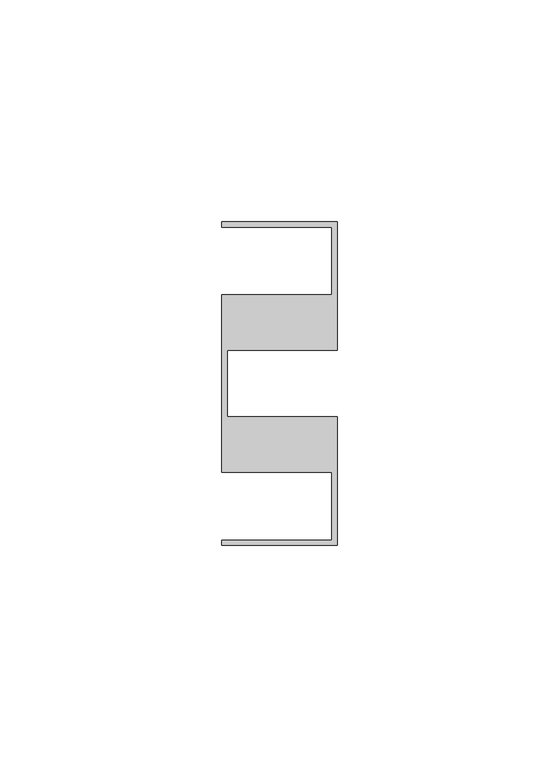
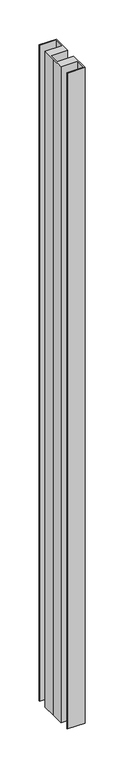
"""IFC4 building model written with IfcOpenShell, lengths in millimetres: member geometry, Прямоугольный импост : 10-AMG-2-Профиль 26Х73 Верх П."""

from ifc_helpers import new_model, si_unit, frame, origin, place, context, project, spatial, polyline, outline, extrude, source, transform, mapped, element, save


def member_746a6d20(model_context):
    return source(origin(), model_context, "Body", "SweptSolid", [
        extrude(outline(polyline([(-26.0, 36.5), (0.0, 36.5), (0.0, 7.5116043), (-24.8, 7.5116043), (-24.8, 0.0), (-24.8, -7.5116043), (0.0, -7.5116043), (0.0, -36.5), (-26.0, -36.5), (-26.0, -35.3116043), (-1.2, -35.3116043), (-1.2, -20.0), (-26.0, -20.0), (-26.0, 0.0), (-26.0, 20.0), (-1.2, 20.0), (-1.2, 35.3), (-26.0, 35.3), (-26.0, 36.5)])), frame((0.0, 0.0, -1025.4988789), z_axis=(0.0, 0.0, 1.0), x_axis=(1.0, 0.0, 0.0)), (0.0, 0.0, 1.0), 1025.4988789),
    ])


if __name__ == "__main__":
    model = new_model("IFC4")
    model_context = context("Model", 3, world=origin())
    ifc_project = project(units=[si_unit("LENGTHUNIT", "METRE", prefix="MILLI")], contexts=[model_context])
    site = spatial("IfcSite", under=ifc_project)
    building = spatial("IfcBuilding", under=site)
    placement = place(None, origin())
    member_shape = member_746a6d20(model_context)
    element("IfcMember", 1, ObjectType="Прямоугольный импост : 10-AMG-2-Профиль 26Х73 Верх П", at=placement, inside=building, context=model_context, shape_type="MappedRepresentation", body=[
        mapped(member_shape, transform((0.0, 0.0, 0.0), x_axis=(1.0, 0.0, 0.0), y_axis=(0.0, 1.0, 0.0), z_axis=(0.0, 0.0, 1.0))),
    ])
    save(model, "model.ifc")
